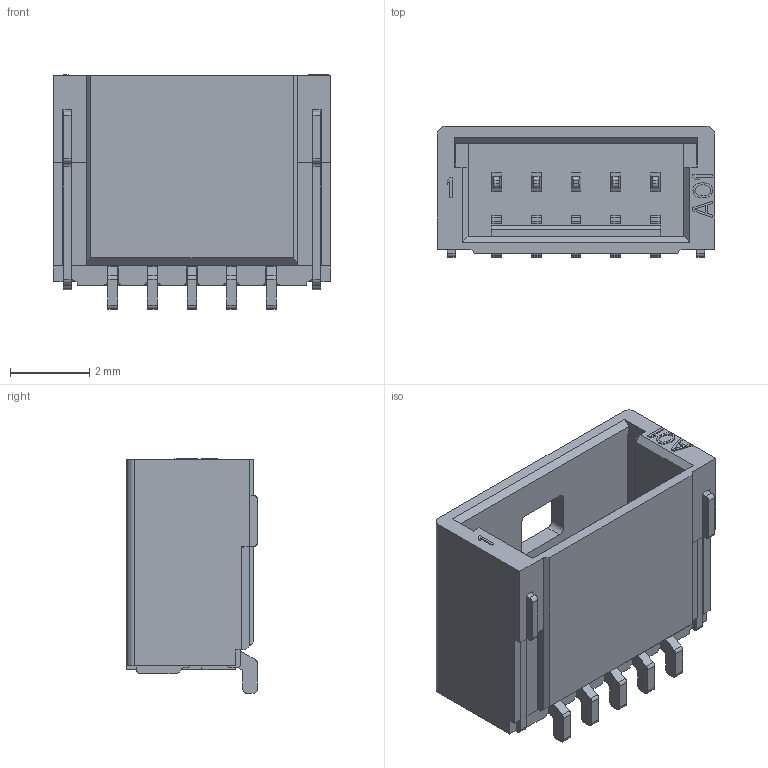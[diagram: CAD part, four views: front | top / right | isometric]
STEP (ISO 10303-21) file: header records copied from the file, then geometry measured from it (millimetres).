
FILE_DESCRIPTION (( 'STEP AP203' ), '1' );
FILE_NAME ('GT-A1008WRS-105SMT01.STEP', '2024-11-06T02:35:27', ( '' ), ( '' ), 'SwSTEP 2.0', 'SolidWorks 2020', '' );
FILE_SCHEMA (( 'CONFIG_CONTROL_DESIGN' ));
Length unit declared in the file: millimetre
Products named in the file (1): GT-A1008WRS-105SMT01
Bounding box: 7 x 3.3 x 5.93 mm (x, y, z)
Volume: 63.3 mm3; surface area: 270 mm2
Topology: 1 solids, 1 shells, 722 faces, 2012 edges, 1336 vertices
Faces by surface type: plane 550, cylinder 101, bspline 71
Entity records: 26491 total; most frequent: CARTESIAN_POINT 8248, ORIENTED_EDGE 4024, DIRECTION 3316, EDGE_CURVE 2012, VECTOR 1648, LINE 1648, VERTEX_POINT 1336, AXIS2_PLACEMENT_3D 834
